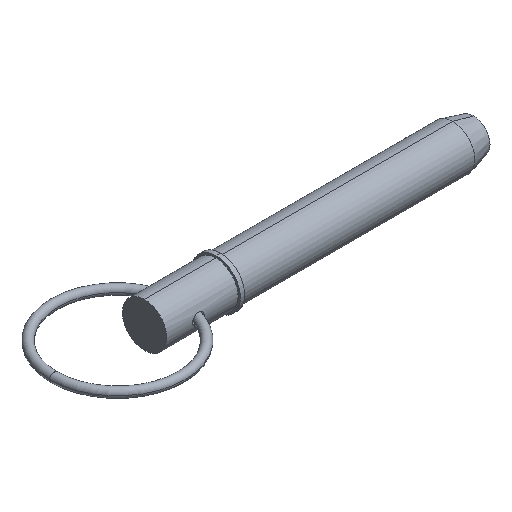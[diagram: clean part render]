
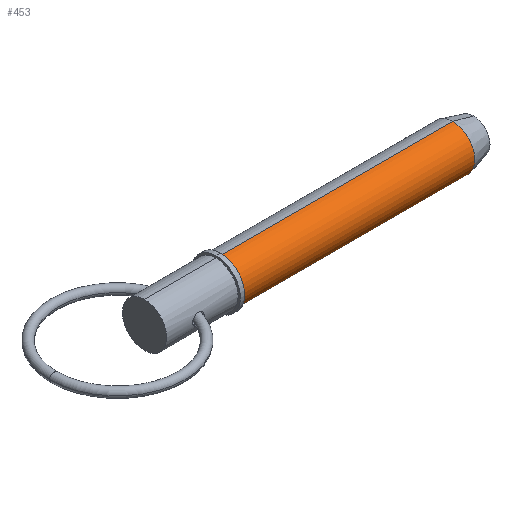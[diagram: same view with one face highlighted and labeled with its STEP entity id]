
A CAD part, isometric view. The second image highlights one B-rep face of the part: STEP entity #453.
In plain terms, the highlighted cylindrical face has radius 11.115 mm (diameter 22.23 mm), a partial arc.
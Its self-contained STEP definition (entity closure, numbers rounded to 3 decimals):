
#63 = EDGE_CURVE ( 'NONE', #631, #881, #73, .T. ) ;
#73 = LINE ( 'NONE', #898, #822 ) ;
#107 = CARTESIAN_POINT ( 'NONE',  ( 154.73, 0., 0. ) ) ;
#135 = AXIS2_PLACEMENT_3D ( 'NONE', #107, #909, #764 ) ;
#147 = EDGE_CURVE ( 'NONE', #385, #365, #565, .T. ) ;
#169 = DIRECTION ( 'NONE',  ( 1., 0., 0. ) ) ;
#230 = CARTESIAN_POINT ( 'NONE',  ( 38.1, 0., 11.115 ) ) ;
#246 = DIRECTION ( 'NONE',  ( 0., 0., -1. ) ) ;
#254 = CARTESIAN_POINT ( 'NONE',  ( 154.73, 0., -11.115 ) ) ;
#295 = ORIENTED_EDGE ( 'NONE', *, *, #367, .F. ) ;
#325 = AXIS2_PLACEMENT_3D ( 'NONE', #394, #169, #246 ) ;
#365 = VERTEX_POINT ( 'NONE', #254 ) ;
#366 = DIRECTION ( 'NONE',  ( 1., 0., 0. ) ) ;
#367 = EDGE_CURVE ( 'NONE', #881, #365, #974, .T. ) ;
#385 = VERTEX_POINT ( 'NONE', #759 ) ;
#394 = CARTESIAN_POINT ( 'NONE',  ( 38.1, 0., 0. ) ) ;
#399 = CARTESIAN_POINT ( 'NONE',  ( 0., 0., -11.115 ) ) ;
#438 = CARTESIAN_POINT ( 'NONE',  ( 154.73, 0., 11.115 ) ) ;
#447 = ORIENTED_EDGE ( 'NONE', *, *, #147, .T. ) ;
#453 = ADVANCED_FACE ( 'NONE', ( #958 ), #877, .T. ) ;
#483 = DIRECTION ( 'NONE',  ( 1., 0., 0. ) ) ;
#565 = LINE ( 'NONE', #399, #707 ) ;
#583 = CIRCLE ( 'NONE', #325, 11.115 ) ;
#610 = ORIENTED_EDGE ( 'NONE', *, *, #63, .F. ) ;
#626 = EDGE_LOOP ( 'NONE', ( #610, #953, #447, #295 ) ) ;
#631 = VERTEX_POINT ( 'NONE', #230 ) ;
#691 = EDGE_CURVE ( 'NONE', #631, #385, #583, .T. ) ;
#707 = VECTOR ( 'NONE', #483, 1000. ) ;
#759 = CARTESIAN_POINT ( 'NONE',  ( 38.1, 0., -11.115 ) ) ;
#764 = DIRECTION ( 'NONE',  ( 0., 0., -1. ) ) ;
#798 = CARTESIAN_POINT ( 'NONE',  ( 0., 0., 0. ) ) ;
#822 = VECTOR ( 'NONE', #891, 1000. ) ;
#861 = DIRECTION ( 'NONE',  ( 0., 0., -1. ) ) ;
#877 = CYLINDRICAL_SURFACE ( 'NONE', #895, 11.115 ) ;
#881 = VERTEX_POINT ( 'NONE', #438 ) ;
#891 = DIRECTION ( 'NONE',  ( 1., 0., 0. ) ) ;
#895 = AXIS2_PLACEMENT_3D ( 'NONE', #798, #366, #861 ) ;
#898 = CARTESIAN_POINT ( 'NONE',  ( 0., 0., 11.115 ) ) ;
#909 = DIRECTION ( 'NONE',  ( 1., 0., 0. ) ) ;
#953 = ORIENTED_EDGE ( 'NONE', *, *, #691, .T. ) ;
#958 = FACE_OUTER_BOUND ( 'NONE', #626, .T. ) ;
#974 = CIRCLE ( 'NONE', #135, 11.115 ) ;
